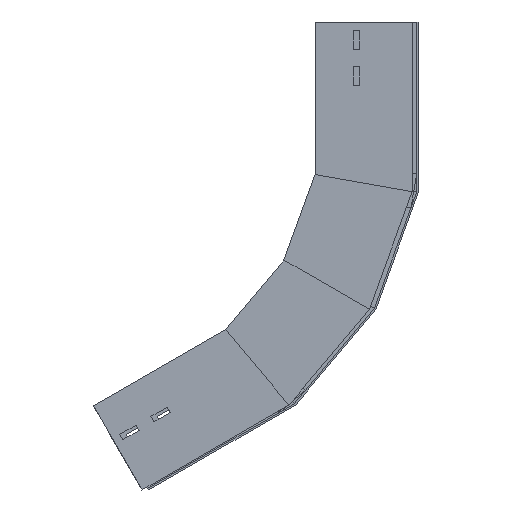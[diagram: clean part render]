
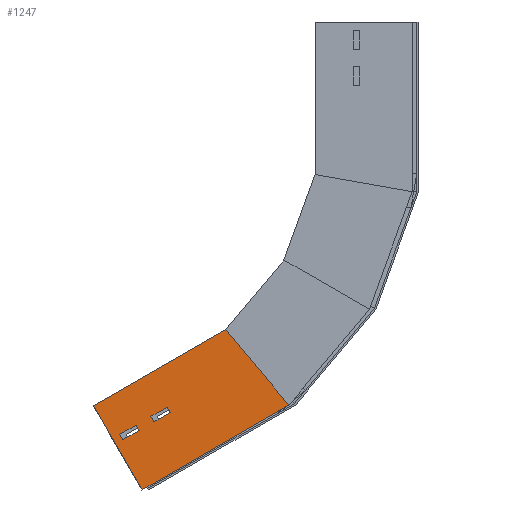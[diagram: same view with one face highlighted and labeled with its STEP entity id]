
A CAD part, left-side view. The second image highlights one B-rep face of the part: STEP entity #1247.
In plain terms, the highlighted planar face has unit normal (-1, 0, 0) as drawn and (1, 0, 0) by its records, which use the part's own axes.
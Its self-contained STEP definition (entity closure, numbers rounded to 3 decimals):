
#19 = LINE ( 'NONE', #387, #995 ) ;
#21 = FACE_BOUND ( 'NONE', #320, .T. ) ;
#29 = DIRECTION ( 'NONE',  ( 0., 1., 0. ) ) ;
#83 = LINE ( 'NONE', #580, #381 ) ;
#87 = CARTESIAN_POINT ( 'NONE',  ( 0., 68.5, -31.835 ) ) ;
#102 = EDGE_CURVE ( 'NONE', #430, #563, #967, .T. ) ;
#155 = CARTESIAN_POINT ( 'NONE',  ( 0., 0., -196.6 ) ) ;
#186 = CARTESIAN_POINT ( 'NONE',  ( 0., 61.5, -73.505 ) ) ;
#269 = EDGE_CURVE ( 'NONE', #701, #1489, #892, .T. ) ;
#277 = FACE_OUTER_BOUND ( 'NONE', #811, .T. ) ;
#284 = LINE ( 'NONE', #1462, #502 ) ;
#292 = EDGE_CURVE ( 'NONE', #456, #1100, #19, .T. ) ;
#298 = EDGE_LOOP ( 'NONE', ( #859, #973, #1317, #1243 ) ) ;
#320 = EDGE_LOOP ( 'NONE', ( #920, #1365, #1328, #466 ) ) ;
#344 = DIRECTION ( 'NONE',  ( 0., 1., 0. ) ) ;
#346 = DIRECTION ( 'NONE',  ( 0., -1., 0. ) ) ;
#381 = VECTOR ( 'NONE', #1233, 1000. ) ;
#387 = CARTESIAN_POINT ( 'NONE',  ( 0., 68.5, -51.505 ) ) ;
#398 = EDGE_CURVE ( 'NONE', #1184, #818, #284, .T. ) ;
#403 = CARTESIAN_POINT ( 'NONE',  ( 0., 0., 0. ) ) ;
#413 = CARTESIAN_POINT ( 'NONE',  ( 0., 112.5, 0. ) ) ;
#418 = CARTESIAN_POINT ( 'NONE',  ( 0., 68.5, -31.835 ) ) ;
#424 = EDGE_CURVE ( 'NONE', #818, #430, #1594, .T. ) ;
#430 = VERTEX_POINT ( 'NONE', #418 ) ;
#454 = LINE ( 'NONE', #970, #1270 ) ;
#456 = VERTEX_POINT ( 'NONE', #1603 ) ;
#466 = ORIENTED_EDGE ( 'NONE', *, *, #1373, .T. ) ;
#469 = EDGE_CURVE ( 'NONE', #701, #1385, #1352, .T. ) ;
#502 = VECTOR ( 'NONE', #29, 1000. ) ;
#504 = EDGE_CURVE ( 'NONE', #1234, #1682, #454, .T. ) ;
#528 = DIRECTION ( 'NONE',  ( -1., 0., 0. ) ) ;
#554 = LINE ( 'NONE', #413, #848 ) ;
#563 = VERTEX_POINT ( 'NONE', #730 ) ;
#580 = CARTESIAN_POINT ( 'NONE',  ( 0., 68.5, -51.505 ) ) ;
#605 = VECTOR ( 'NONE', #932, 1000. ) ;
#606 = LINE ( 'NONE', #1226, #1150 ) ;
#620 = CARTESIAN_POINT ( 'NONE',  ( 0., 0., 0. ) ) ;
#662 = CARTESIAN_POINT ( 'NONE',  ( 0., 68.5, -73.505 ) ) ;
#668 = PLANE ( 'NONE',  #737 ) ;
#691 = VECTOR ( 'NONE', #815, 1000. ) ;
#692 = CARTESIAN_POINT ( 'NONE',  ( 0., 0., 0. ) ) ;
#701 = VERTEX_POINT ( 'NONE', #856 ) ;
#704 = CARTESIAN_POINT ( 'NONE',  ( 0., 112.5, 0. ) ) ;
#730 = CARTESIAN_POINT ( 'NONE',  ( 0., 61.5, -31.835 ) ) ;
#732 = CARTESIAN_POINT ( 'NONE',  ( 0., 112.5, -176.763 ) ) ;
#737 = AXIS2_PLACEMENT_3D ( 'NONE', #403, #528, #914 ) ;
#759 = DIRECTION ( 'NONE',  ( 0., 1., 0. ) ) ;
#793 = FACE_BOUND ( 'NONE', #298, .T. ) ;
#795 = VECTOR ( 'NONE', #1185, 1000. ) ;
#808 = CARTESIAN_POINT ( 'NONE',  ( 0., 68.5, -9.835 ) ) ;
#811 = EDGE_LOOP ( 'NONE', ( #1142, #832, #1581, #1202 ) ) ;
#815 = DIRECTION ( 'NONE',  ( 0., 0., -1. ) ) ;
#818 = VERTEX_POINT ( 'NONE', #907 ) ;
#832 = ORIENTED_EDGE ( 'NONE', *, *, #269, .F. ) ;
#848 = VECTOR ( 'NONE', #926, 1000. ) ;
#856 = CARTESIAN_POINT ( 'NONE',  ( 0., 0., 0. ) ) ;
#859 = ORIENTED_EDGE ( 'NONE', *, *, #398, .T. ) ;
#862 = VECTOR ( 'NONE', #1222, 1000. ) ;
#892 = LINE ( 'NONE', #620, #1684 ) ;
#897 = CARTESIAN_POINT ( 'NONE',  ( 0., 61.5, -9.835 ) ) ;
#907 = CARTESIAN_POINT ( 'NONE',  ( 0., 68.5, -9.835 ) ) ;
#914 = DIRECTION ( 'NONE',  ( 0., 0., 1. ) ) ;
#920 = ORIENTED_EDGE ( 'NONE', *, *, #292, .T. ) ;
#926 = DIRECTION ( 'NONE',  ( 0., 0., -1. ) ) ;
#932 = DIRECTION ( 'NONE',  ( 0., 0., 1. ) ) ;
#967 = LINE ( 'NONE', #87, #1461 ) ;
#970 = CARTESIAN_POINT ( 'NONE',  ( 0., 68.5, -73.505 ) ) ;
#973 = ORIENTED_EDGE ( 'NONE', *, *, #424, .T. ) ;
#995 = VECTOR ( 'NONE', #759, 1000. ) ;
#1047 = EDGE_CURVE ( 'NONE', #1100, #1234, #83, .T. ) ;
#1100 = VERTEX_POINT ( 'NONE', #1296 ) ;
#1142 = ORIENTED_EDGE ( 'NONE', *, *, #1295, .F. ) ;
#1150 = VECTOR ( 'NONE', #1254, 1000. ) ;
#1184 = VERTEX_POINT ( 'NONE', #897 ) ;
#1185 = DIRECTION ( 'NONE',  ( 0., 0., 1. ) ) ;
#1197 = LINE ( 'NONE', #1477, #605 ) ;
#1202 = ORIENTED_EDGE ( 'NONE', *, *, #1433, .F. ) ;
#1208 = CARTESIAN_POINT ( 'NONE',  ( 0., 61.5, -51.505 ) ) ;
#1210 = DIRECTION ( 'NONE',  ( 0., -1., 0. ) ) ;
#1222 = DIRECTION ( 'NONE',  ( 0., 0., -1. ) ) ;
#1226 = CARTESIAN_POINT ( 'NONE',  ( 0., 33.621, -190.672 ) ) ;
#1233 = DIRECTION ( 'NONE',  ( 0., 0., -1. ) ) ;
#1234 = VERTEX_POINT ( 'NONE', #662 ) ;
#1243 = ORIENTED_EDGE ( 'NONE', *, *, #1654, .T. ) ;
#1247 = ADVANCED_FACE ( 'NONE', ( #21, #277, #793 ), #668, .F. ) ;
#1254 = DIRECTION ( 'NONE',  ( 0., -0.985, -0.174 ) ) ;
#1270 = VECTOR ( 'NONE', #346, 1000. ) ;
#1295 = EDGE_CURVE ( 'NONE', #1489, #1509, #554, .T. ) ;
#1296 = CARTESIAN_POINT ( 'NONE',  ( 0., 68.5, -51.505 ) ) ;
#1317 = ORIENTED_EDGE ( 'NONE', *, *, #102, .T. ) ;
#1328 = ORIENTED_EDGE ( 'NONE', *, *, #504, .T. ) ;
#1352 = LINE ( 'NONE', #692, #862 ) ;
#1365 = ORIENTED_EDGE ( 'NONE', *, *, #1047, .T. ) ;
#1373 = EDGE_CURVE ( 'NONE', #1682, #456, #1467, .T. ) ;
#1385 = VERTEX_POINT ( 'NONE', #155 ) ;
#1433 = EDGE_CURVE ( 'NONE', #1509, #1385, #606, .T. ) ;
#1461 = VECTOR ( 'NONE', #1210, 1000. ) ;
#1462 = CARTESIAN_POINT ( 'NONE',  ( 0., 68.5, -9.835 ) ) ;
#1467 = LINE ( 'NONE', #1208, #795 ) ;
#1477 = CARTESIAN_POINT ( 'NONE',  ( 0., 61.5, -9.835 ) ) ;
#1489 = VERTEX_POINT ( 'NONE', #704 ) ;
#1509 = VERTEX_POINT ( 'NONE', #732 ) ;
#1581 = ORIENTED_EDGE ( 'NONE', *, *, #469, .T. ) ;
#1594 = LINE ( 'NONE', #808, #691 ) ;
#1603 = CARTESIAN_POINT ( 'NONE',  ( 0., 61.5, -51.505 ) ) ;
#1654 = EDGE_CURVE ( 'NONE', #563, #1184, #1197, .T. ) ;
#1682 = VERTEX_POINT ( 'NONE', #186 ) ;
#1684 = VECTOR ( 'NONE', #344, 1000. ) ;
